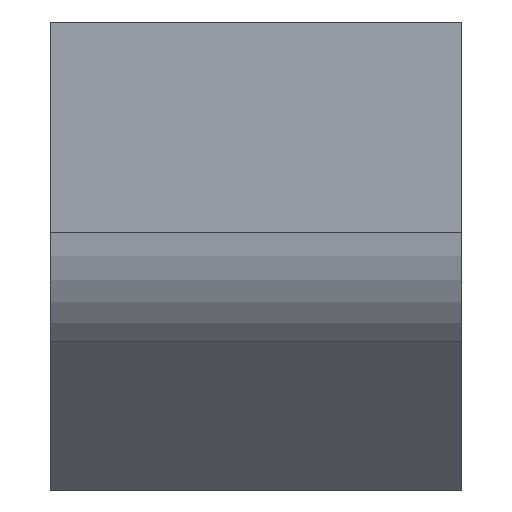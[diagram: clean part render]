
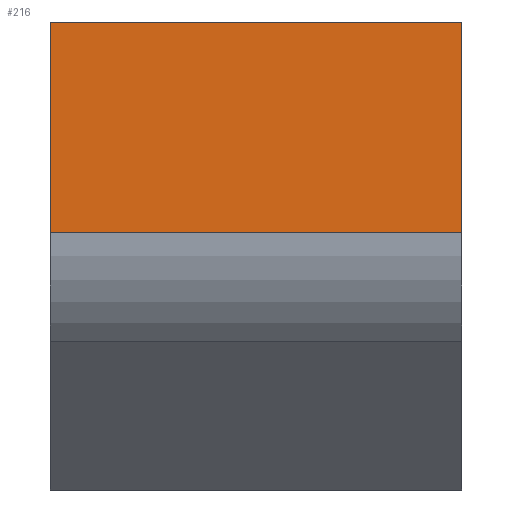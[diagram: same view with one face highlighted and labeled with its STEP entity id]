
A CAD part, front view. The second image highlights one B-rep face of the part: STEP entity #216.
In plain terms, the highlighted planar face has unit normal (0, -1, 0).
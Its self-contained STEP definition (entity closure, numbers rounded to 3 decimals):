
#106 = CARTESIAN_POINT ( 'NONE',  ( -100., -100., 0. ) ) ;
#109 = LINE ( 'NONE', #1405, #432 ) ;
#140 = DIRECTION ( 'NONE',  ( 0., 0., -1. ) ) ;
#174 = CARTESIAN_POINT ( 'NONE',  ( -100., -100., -102.132 ) ) ;
#177 = ORIENTED_EDGE ( 'NONE', *, *, #1167, .T. ) ;
#216 = ADVANCED_FACE ( 'NONE', ( #1640 ), #1518, .F. ) ;
#239 = VECTOR ( 'NONE', #1534, 1000. ) ;
#269 = VECTOR ( 'NONE', #140, 1000. ) ;
#287 = ORIENTED_EDGE ( 'NONE', *, *, #774, .F. ) ;
#302 = CARTESIAN_POINT ( 'NONE',  ( 100., -100., 0. ) ) ;
#379 = LINE ( 'NONE', #1137, #239 ) ;
#418 = ORIENTED_EDGE ( 'NONE', *, *, #1467, .T. ) ;
#432 = VECTOR ( 'NONE', #619, 1000. ) ;
#472 = CARTESIAN_POINT ( 'NONE',  ( 100., -100., -102.132 ) ) ;
#494 = ORIENTED_EDGE ( 'NONE', *, *, #510, .F. ) ;
#510 = EDGE_CURVE ( 'NONE', #1623, #913, #379, .T. ) ;
#531 = AXIS2_PLACEMENT_3D ( 'NONE', #472, #1509, #1377 ) ;
#619 = DIRECTION ( 'NONE',  ( -1., 0., 0. ) ) ;
#649 = VERTEX_POINT ( 'NONE', #106 ) ;
#660 = CARTESIAN_POINT ( 'NONE',  ( -100., -100., -102.132 ) ) ;
#774 = EDGE_CURVE ( 'NONE', #1092, #1623, #905, .T. ) ;
#812 = LINE ( 'NONE', #174, #1531 ) ;
#841 = CARTESIAN_POINT ( 'NONE',  ( 100., -100., -102.132 ) ) ;
#905 = LINE ( 'NONE', #1431, #269 ) ;
#913 = VERTEX_POINT ( 'NONE', #660 ) ;
#1092 = VERTEX_POINT ( 'NONE', #302 ) ;
#1137 = CARTESIAN_POINT ( 'NONE',  ( 100., -100., -102.132 ) ) ;
#1167 = EDGE_CURVE ( 'NONE', #649, #913, #812, .T. ) ;
#1262 = EDGE_LOOP ( 'NONE', ( #177, #494, #287, #418 ) ) ;
#1377 = DIRECTION ( 'NONE',  ( 0., 0., 1. ) ) ;
#1405 = CARTESIAN_POINT ( 'NONE',  ( 100., -100., 0. ) ) ;
#1431 = CARTESIAN_POINT ( 'NONE',  ( 100., -100., -102.132 ) ) ;
#1467 = EDGE_CURVE ( 'NONE', #1092, #649, #109, .T. ) ;
#1471 = DIRECTION ( 'NONE',  ( 0., 0., -1. ) ) ;
#1509 = DIRECTION ( 'NONE',  ( 0., 1., 0. ) ) ;
#1518 = PLANE ( 'NONE',  #531 ) ;
#1531 = VECTOR ( 'NONE', #1471, 1000. ) ;
#1534 = DIRECTION ( 'NONE',  ( -1., 0., 0. ) ) ;
#1623 = VERTEX_POINT ( 'NONE', #841 ) ;
#1640 = FACE_OUTER_BOUND ( 'NONE', #1262, .T. ) ;
